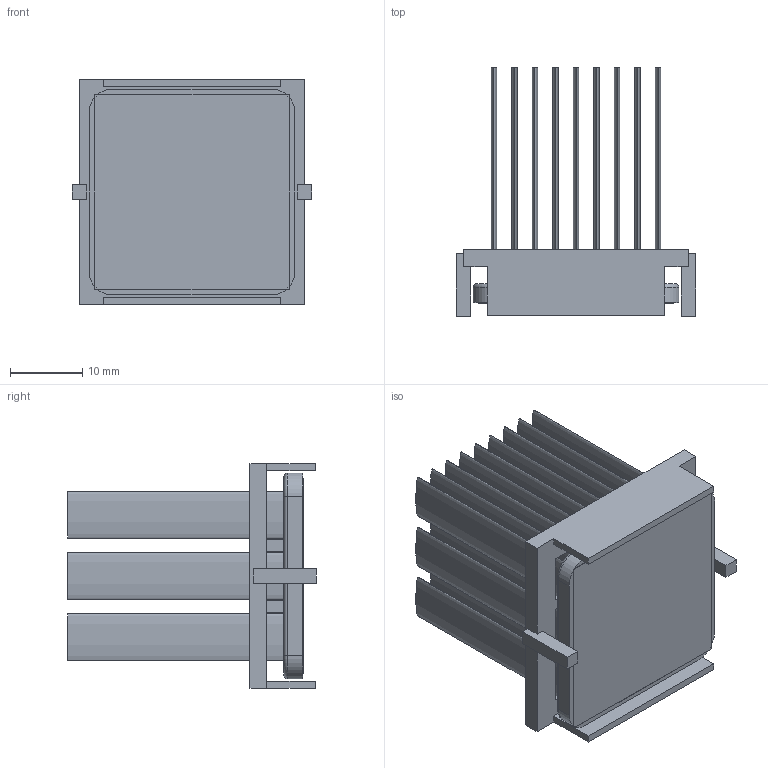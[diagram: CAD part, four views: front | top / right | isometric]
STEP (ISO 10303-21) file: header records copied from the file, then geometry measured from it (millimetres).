
FILE_DESCRIPTION (( 'STEP AP214' ), '1' );
FILE_NAME ('INM29001-33W-2.6BU.STEP', '2023-02-17T21:25:50', ( '' ), ( '' ), 'SwSTEP 2.0', 'SolidWorks 2020', '' );
FILE_SCHEMA (( 'AUTOMOTIVE_DESIGN' ));
Length unit declared in the file: inch
Products named in the file (1): INM29001-33W-2.6BU
Bounding box: 33.2 x 34.5 x 31.2 mm (x, y, z)
Volume: 7140.1 mm3; surface area: 16669.6 mm2
Topology: 3 solids, 3 shells, 159 faces, 370 edges, 244 vertices
Faces by surface type: plane 93, bspline 54, cylinder 8, torus 4
Entity records: 6735 total; most frequent: CARTESIAN_POINT 1476, ORIENTED_EDGE 740, DIRECTION 494, EDGE_CURVE 370, VERTEX_POINT 244, LINE 242, VECTOR 242, EDGE_LOOP 188
